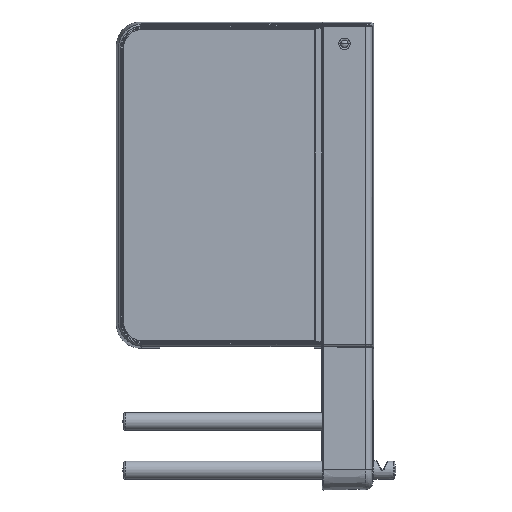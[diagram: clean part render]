
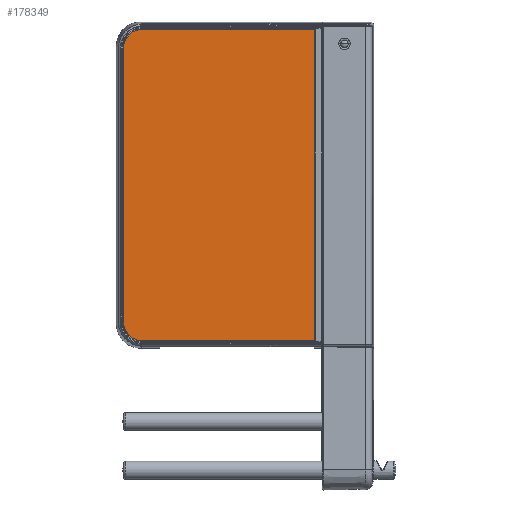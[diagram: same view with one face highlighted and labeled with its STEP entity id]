
A CAD part, top view. The second image highlights one B-rep face of the part: STEP entity #178349.
In plain terms, the highlighted planar face has unit normal (0, 0, 1).
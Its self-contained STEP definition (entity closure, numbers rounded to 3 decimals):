
#178290 = VERTEX_POINT('',#178291);
#178291 = CARTESIAN_POINT('',(-95.75,-192.5,
    4.));
#178297 = EDGE_CURVE('',#178290,#178298,#178300,.T.);
#178298 = VERTEX_POINT('',#178299);
#178299 = CARTESIAN_POINT('',(119.25,-192.5,4.));
#178300 = LINE('',#178301,#178302);
#178301 = CARTESIAN_POINT('',(-95.75,-192.5,
    4.));
#178302 = VECTOR('',#178303,1.);
#178303 = DIRECTION('',(1.,0.,0.));
#178321 = VERTEX_POINT('',#178322);
#178322 = CARTESIAN_POINT('',(-119.25,-169.,
    4.));
#178338 = EDGE_CURVE('',#178321,#178290,#178339,.T.);
#178339 = CIRCLE('',#178340,23.5);
#178340 = AXIS2_PLACEMENT_3D('',#178341,#178342,#178343);
#178341 = CARTESIAN_POINT('',(-95.75,-169.,4.));
#178342 = DIRECTION('',(0.,0.,1.));
#178343 = DIRECTION('',(-1.,0.,0.));
#178349 = ADVANCED_FACE('',(#178350),#178385,.T.);
#178350 = FACE_BOUND('',#178351,.F.);
#178351 = EDGE_LOOP('',(#178352,#178360,#178369,#178377,#178383,#178384)
  );
#178352 = ORIENTED_EDGE('',*,*,#178353,.F.);
#178353 = EDGE_CURVE('',#178354,#178321,#178356,.T.);
#178354 = VERTEX_POINT('',#178355);
#178355 = CARTESIAN_POINT('',(-119.25,169.,
    4.));
#178356 = LINE('',#178357,#178358);
#178357 = CARTESIAN_POINT('',(-119.25,169.,
    4.));
#178358 = VECTOR('',#178359,1.);
#178359 = DIRECTION('',(0.,-1.,0.));
#178360 = ORIENTED_EDGE('',*,*,#178361,.F.);
#178361 = EDGE_CURVE('',#178362,#178354,#178364,.T.);
#178362 = VERTEX_POINT('',#178363);
#178363 = CARTESIAN_POINT('',(-95.75,192.5,
    4.));
#178364 = CIRCLE('',#178365,23.5);
#178365 = AXIS2_PLACEMENT_3D('',#178366,#178367,#178368);
#178366 = CARTESIAN_POINT('',(-95.75,169.,4.));
#178367 = DIRECTION('',(0.,-0.,1.));
#178368 = DIRECTION('',(0.,1.,0.));
#178369 = ORIENTED_EDGE('',*,*,#178370,.F.);
#178370 = EDGE_CURVE('',#178371,#178362,#178373,.T.);
#178371 = VERTEX_POINT('',#178372);
#178372 = CARTESIAN_POINT('',(119.25,192.5,4.));
#178373 = LINE('',#178374,#178375);
#178374 = CARTESIAN_POINT('',(119.25,192.5,4.));
#178375 = VECTOR('',#178376,1.);
#178376 = DIRECTION('',(-1.,0.,0.));
#178377 = ORIENTED_EDGE('',*,*,#178378,.F.);
#178378 = EDGE_CURVE('',#178298,#178371,#178379,.T.);
#178379 = LINE('',#178380,#178381);
#178380 = CARTESIAN_POINT('',(119.25,-192.5,4.));
#178381 = VECTOR('',#178382,1.);
#178382 = DIRECTION('',(0.,1.,0.));
#178383 = ORIENTED_EDGE('',*,*,#178297,.F.);
#178384 = ORIENTED_EDGE('',*,*,#178338,.F.);
#178385 = PLANE('',#178386);
#178386 = AXIS2_PLACEMENT_3D('',#178387,#178388,#178389);
#178387 = CARTESIAN_POINT('',(0.,0.,4.));
#178388 = DIRECTION('',(0.,0.,1.));
#178389 = DIRECTION('',(1.,0.,-0.));
